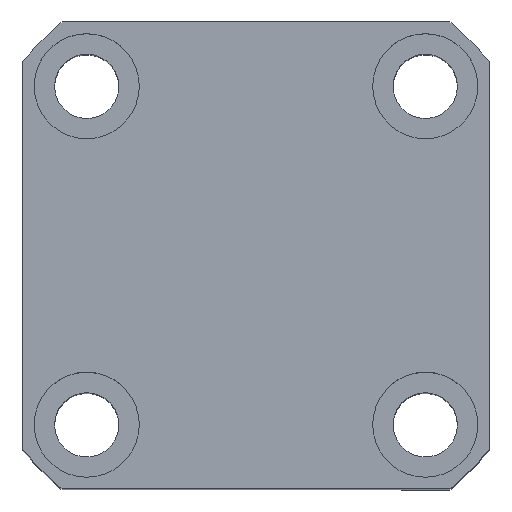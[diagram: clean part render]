
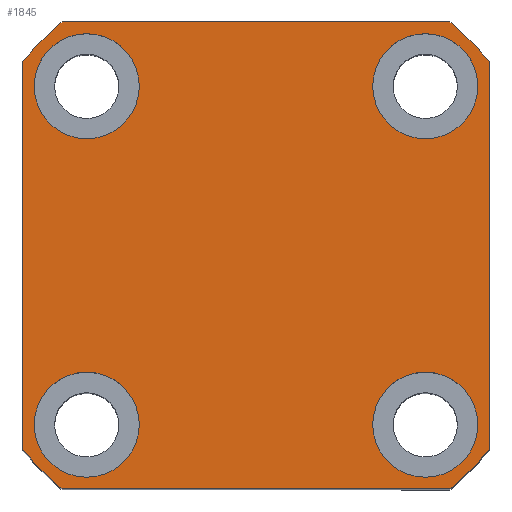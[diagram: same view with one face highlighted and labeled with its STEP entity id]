
A CAD part, top view. The second image highlights one B-rep face of the part: STEP entity #1845.
In plain terms, the highlighted planar face has unit normal (0, 0, 1).
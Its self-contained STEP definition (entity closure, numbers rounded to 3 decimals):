
#216 = ORIENTED_EDGE ( 'NONE', *, *, #10767, .F. ) ;
#259 = EDGE_CURVE ( 'NONE', #10861, #6451, #730, .T. ) ;
#306 = CARTESIAN_POINT ( 'NONE',  ( 29., 29., 52.5 ) ) ;
#332 = DIRECTION ( 'NONE',  ( 1., 0., 0. ) ) ;
#361 = VERTEX_POINT ( 'NONE', #2137 ) ;
#458 = CARTESIAN_POINT ( 'NONE',  ( 29., -29., 52.5 ) ) ;
#467 = CARTESIAN_POINT ( 'NONE',  ( 40., 33.226, 52.5 ) ) ;
#525 = EDGE_CURVE ( 'NONE', #9718, #5875, #2043, .T. ) ;
#598 = CIRCLE ( 'NONE', #9374, 9. ) ;
#648 = VERTEX_POINT ( 'NONE', #10287 ) ;
#730 = CIRCLE ( 'NONE', #1152, 9. ) ;
#851 = CARTESIAN_POINT ( 'NONE',  ( -29., 29., 52.5 ) ) ;
#995 = ORIENTED_EDGE ( 'NONE', *, *, #9836, .T. ) ;
#1152 = AXIS2_PLACEMENT_3D ( 'NONE', #8555, #5136, #2537 ) ;
#1271 = CARTESIAN_POINT ( 'NONE',  ( 20., -29., 52.5 ) ) ;
#1287 = CARTESIAN_POINT ( 'NONE',  ( 0., 0., 52.5 ) ) ;
#1298 = PLANE ( 'NONE',  #8190 ) ;
#1323 = ORIENTED_EDGE ( 'NONE', *, *, #2543, .T. ) ;
#1378 = EDGE_CURVE ( 'NONE', #2059, #4573, #598, .T. ) ;
#1450 = EDGE_CURVE ( 'NONE', #6662, #7944, #4002, .T. ) ;
#1494 = FACE_BOUND ( 'NONE', #5127, .T. ) ;
#1725 = EDGE_CURVE ( 'NONE', #5465, #6746, #8977, .T. ) ;
#1767 = CARTESIAN_POINT ( 'NONE',  ( -40., 33.226, 52.5 ) ) ;
#1845 = ADVANCED_FACE ( 'NONE', ( #4245, #1494, #5815, #10548, #3596 ), #1298, .T. ) ;
#1907 = EDGE_LOOP ( 'NONE', ( #6121, #10726, #1323, #995, #5695, #8893, #5198, #3819 ) ) ;
#2015 = DIRECTION ( 'NONE',  ( 0., 0., 1. ) ) ;
#2043 = CIRCLE ( 'NONE', #5438, 9. ) ;
#2059 = VERTEX_POINT ( 'NONE', #3506 ) ;
#2127 = CARTESIAN_POINT ( 'NONE',  ( 0., 0., 52.5 ) ) ;
#2137 = CARTESIAN_POINT ( 'NONE',  ( 33.226, -40., 52.5 ) ) ;
#2288 = VECTOR ( 'NONE', #10036, 1000. ) ;
#2295 = CARTESIAN_POINT ( 'NONE',  ( -40., 33.226, 52.5 ) ) ;
#2395 = CIRCLE ( 'NONE', #3786, 52. ) ;
#2474 = ORIENTED_EDGE ( 'NONE', *, *, #8672, .F. ) ;
#2491 = DIRECTION ( 'NONE',  ( 1., 0., 0. ) ) ;
#2537 = DIRECTION ( 'NONE',  ( 1., 0., 0. ) ) ;
#2543 = EDGE_CURVE ( 'NONE', #9524, #648, #3063, .T. ) ;
#2613 = DIRECTION ( 'NONE',  ( 0., 0., 1. ) ) ;
#2626 = CARTESIAN_POINT ( 'NONE',  ( -20., 29., 52.5 ) ) ;
#2664 = VECTOR ( 'NONE', #6846, 1000. ) ;
#2714 = CARTESIAN_POINT ( 'NONE',  ( -33.226, 40., 52.5 ) ) ;
#2828 = CARTESIAN_POINT ( 'NONE',  ( 38., -29., 52.5 ) ) ;
#2871 = EDGE_CURVE ( 'NONE', #5875, #9718, #4377, .T. ) ;
#2886 = CARTESIAN_POINT ( 'NONE',  ( -38., 29., 52.5 ) ) ;
#2951 = VERTEX_POINT ( 'NONE', #7867 ) ;
#2961 = CIRCLE ( 'NONE', #9343, 52. ) ;
#3063 = CIRCLE ( 'NONE', #10003, 52. ) ;
#3066 = CARTESIAN_POINT ( 'NONE',  ( -40., -33.226, 52.5 ) ) ;
#3302 = EDGE_CURVE ( 'NONE', #2951, #8989, #7646, .T. ) ;
#3506 = CARTESIAN_POINT ( 'NONE',  ( -38., -29., 52.5 ) ) ;
#3596 = FACE_OUTER_BOUND ( 'NONE', #1907, .T. ) ;
#3738 = EDGE_CURVE ( 'NONE', #7944, #5021, #8833, .T. ) ;
#3786 = AXIS2_PLACEMENT_3D ( 'NONE', #1287, #9694, #7955 ) ;
#3819 = ORIENTED_EDGE ( 'NONE', *, *, #1450, .T. ) ;
#3912 = CARTESIAN_POINT ( 'NONE',  ( 0., 0., 52.5 ) ) ;
#4002 = LINE ( 'NONE', #4860, #2288 ) ;
#4050 = ORIENTED_EDGE ( 'NONE', *, *, #1725, .F. ) ;
#4125 = EDGE_LOOP ( 'NONE', ( #6270, #10649 ) ) ;
#4139 = VECTOR ( 'NONE', #6134, 1000. ) ;
#4183 = CARTESIAN_POINT ( 'NONE',  ( 0., 0., 52.5 ) ) ;
#4245 = FACE_BOUND ( 'NONE', #9180, .T. ) ;
#4377 = CIRCLE ( 'NONE', #6291, 9. ) ;
#4484 = DIRECTION ( 'NONE',  ( 0., 0., 1. ) ) ;
#4563 = DIRECTION ( 'NONE',  ( 0., 0., 1. ) ) ;
#4573 = VERTEX_POINT ( 'NONE', #5936 ) ;
#4625 = EDGE_CURVE ( 'NONE', #5021, #9524, #5304, .T. ) ;
#4810 = EDGE_LOOP ( 'NONE', ( #9429, #6875 ) ) ;
#4860 = CARTESIAN_POINT ( 'NONE',  ( -33.226, 40., 52.5 ) ) ;
#4958 = DIRECTION ( 'NONE',  ( 0., 0., 1. ) ) ;
#5021 = VERTEX_POINT ( 'NONE', #2295 ) ;
#5025 = DIRECTION ( 'NONE',  ( 0., -1., 0. ) ) ;
#5127 = EDGE_LOOP ( 'NONE', ( #216, #8496 ) ) ;
#5136 = DIRECTION ( 'NONE',  ( 0., 0., 1. ) ) ;
#5198 = ORIENTED_EDGE ( 'NONE', *, *, #6824, .T. ) ;
#5304 = LINE ( 'NONE', #1767, #6736 ) ;
#5438 = AXIS2_PLACEMENT_3D ( 'NONE', #851, #4958, #9997 ) ;
#5465 = VERTEX_POINT ( 'NONE', #1271 ) ;
#5541 = AXIS2_PLACEMENT_3D ( 'NONE', #5768, #10793, #5876 ) ;
#5568 = CIRCLE ( 'NONE', #5623, 9. ) ;
#5623 = AXIS2_PLACEMENT_3D ( 'NONE', #9338, #10146, #2491 ) ;
#5624 = DIRECTION ( 'NONE',  ( 1., 0., 0. ) ) ;
#5681 = DIRECTION ( 'NONE',  ( 1., 0., 0. ) ) ;
#5695 = ORIENTED_EDGE ( 'NONE', *, *, #10764, .T. ) ;
#5724 = CIRCLE ( 'NONE', #5541, 9. ) ;
#5768 = CARTESIAN_POINT ( 'NONE',  ( 29., -29., 52.5 ) ) ;
#5815 = FACE_BOUND ( 'NONE', #4125, .T. ) ;
#5875 = VERTEX_POINT ( 'NONE', #2886 ) ;
#5876 = DIRECTION ( 'NONE',  ( 1., 0., 0. ) ) ;
#5936 = CARTESIAN_POINT ( 'NONE',  ( -20., -29., 52.5 ) ) ;
#6114 = LINE ( 'NONE', #9398, #4139 ) ;
#6121 = ORIENTED_EDGE ( 'NONE', *, *, #3738, .T. ) ;
#6134 = DIRECTION ( 'NONE',  ( 1., 0., 0. ) ) ;
#6152 = CARTESIAN_POINT ( 'NONE',  ( 33.226, 40., 52.5 ) ) ;
#6268 = DIRECTION ( 'NONE',  ( 1., 0., 0. ) ) ;
#6270 = ORIENTED_EDGE ( 'NONE', *, *, #525, .F. ) ;
#6291 = AXIS2_PLACEMENT_3D ( 'NONE', #9491, #4484, #8737 ) ;
#6451 = VERTEX_POINT ( 'NONE', #6894 ) ;
#6662 = VERTEX_POINT ( 'NONE', #6152 ) ;
#6736 = VECTOR ( 'NONE', #5025, 1000. ) ;
#6746 = VERTEX_POINT ( 'NONE', #2828 ) ;
#6824 = EDGE_CURVE ( 'NONE', #8989, #6662, #2395, .T. ) ;
#6846 = DIRECTION ( 'NONE',  ( 0., 1., 0. ) ) ;
#6875 = ORIENTED_EDGE ( 'NONE', *, *, #7112, .F. ) ;
#6894 = CARTESIAN_POINT ( 'NONE',  ( 20., 29., 52.5 ) ) ;
#7112 = EDGE_CURVE ( 'NONE', #6451, #10861, #7442, .T. ) ;
#7146 = AXIS2_PLACEMENT_3D ( 'NONE', #3912, #8236, #5624 ) ;
#7442 = CIRCLE ( 'NONE', #10314, 9. ) ;
#7623 = DIRECTION ( 'NONE',  ( 1., 0., 0. ) ) ;
#7646 = LINE ( 'NONE', #10290, #2664 ) ;
#7867 = CARTESIAN_POINT ( 'NONE',  ( 40., -33.226, 52.5 ) ) ;
#7944 = VERTEX_POINT ( 'NONE', #2714 ) ;
#7955 = DIRECTION ( 'NONE',  ( 1., 0., 0. ) ) ;
#8190 = AXIS2_PLACEMENT_3D ( 'NONE', #2127, #4563, #6268 ) ;
#8236 = DIRECTION ( 'NONE',  ( 0., 0., 1. ) ) ;
#8295 = DIRECTION ( 'NONE',  ( 0., 0., 1. ) ) ;
#8496 = ORIENTED_EDGE ( 'NONE', *, *, #1378, .F. ) ;
#8555 = CARTESIAN_POINT ( 'NONE',  ( 29., 29., 52.5 ) ) ;
#8672 = EDGE_CURVE ( 'NONE', #6746, #5465, #5724, .T. ) ;
#8737 = DIRECTION ( 'NONE',  ( 1., 0., 0. ) ) ;
#8833 = CIRCLE ( 'NONE', #7146, 52. ) ;
#8893 = ORIENTED_EDGE ( 'NONE', *, *, #3302, .T. ) ;
#8977 = CIRCLE ( 'NONE', #9927, 9. ) ;
#8989 = VERTEX_POINT ( 'NONE', #467 ) ;
#8997 = CARTESIAN_POINT ( 'NONE',  ( -29., -29., 52.5 ) ) ;
#9180 = EDGE_LOOP ( 'NONE', ( #2474, #4050 ) ) ;
#9223 = CARTESIAN_POINT ( 'NONE',  ( 38., 29., 52.5 ) ) ;
#9338 = CARTESIAN_POINT ( 'NONE',  ( -29., -29., 52.5 ) ) ;
#9343 = AXIS2_PLACEMENT_3D ( 'NONE', #4183, #2613, #7623 ) ;
#9374 = AXIS2_PLACEMENT_3D ( 'NONE', #8997, #8295, #5681 ) ;
#9398 = CARTESIAN_POINT ( 'NONE',  ( -33.226, -40., 52.5 ) ) ;
#9429 = ORIENTED_EDGE ( 'NONE', *, *, #259, .F. ) ;
#9471 = DIRECTION ( 'NONE',  ( 0., 0., 1. ) ) ;
#9491 = CARTESIAN_POINT ( 'NONE',  ( -29., 29., 52.5 ) ) ;
#9524 = VERTEX_POINT ( 'NONE', #3066 ) ;
#9694 = DIRECTION ( 'NONE',  ( 0., 0., 1. ) ) ;
#9718 = VERTEX_POINT ( 'NONE', #2626 ) ;
#9836 = EDGE_CURVE ( 'NONE', #648, #361, #6114, .T. ) ;
#9927 = AXIS2_PLACEMENT_3D ( 'NONE', #458, #2015, #10518 ) ;
#9997 = DIRECTION ( 'NONE',  ( 1., 0., 0. ) ) ;
#10003 = AXIS2_PLACEMENT_3D ( 'NONE', #10281, #9471, #332 ) ;
#10036 = DIRECTION ( 'NONE',  ( -1., 0., 0. ) ) ;
#10146 = DIRECTION ( 'NONE',  ( 0., 0., 1. ) ) ;
#10281 = CARTESIAN_POINT ( 'NONE',  ( 0., 0., 52.5 ) ) ;
#10287 = CARTESIAN_POINT ( 'NONE',  ( -33.226, -40., 52.5 ) ) ;
#10290 = CARTESIAN_POINT ( 'NONE',  ( 40., 33.226, 52.5 ) ) ;
#10301 = DIRECTION ( 'NONE',  ( 1., 0., 0. ) ) ;
#10314 = AXIS2_PLACEMENT_3D ( 'NONE', #306, #10340, #10301 ) ;
#10340 = DIRECTION ( 'NONE',  ( 0., 0., 1. ) ) ;
#10518 = DIRECTION ( 'NONE',  ( 1., 0., 0. ) ) ;
#10548 = FACE_BOUND ( 'NONE', #4810, .T. ) ;
#10649 = ORIENTED_EDGE ( 'NONE', *, *, #2871, .F. ) ;
#10726 = ORIENTED_EDGE ( 'NONE', *, *, #4625, .T. ) ;
#10764 = EDGE_CURVE ( 'NONE', #361, #2951, #2961, .T. ) ;
#10767 = EDGE_CURVE ( 'NONE', #4573, #2059, #5568, .T. ) ;
#10793 = DIRECTION ( 'NONE',  ( 0., 0., 1. ) ) ;
#10861 = VERTEX_POINT ( 'NONE', #9223 ) ;
